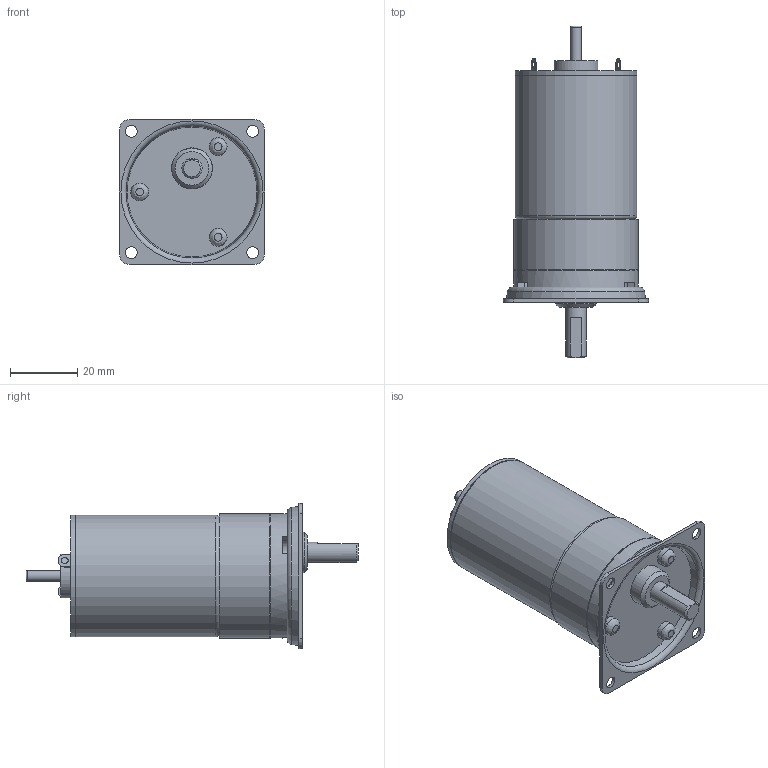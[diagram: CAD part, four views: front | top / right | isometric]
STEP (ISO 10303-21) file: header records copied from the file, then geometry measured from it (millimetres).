
FILE_DESCRIPTION((''),'2;1');
FILE_NAME('C:\Documents and Settings\SSEGAWA\デスクトップ\TP-3644L-PKS-2.STP','2013-07-26T19:07:37',('SSEGAWA'),(''),'Autodesk Inventor 2010','Autodesk Inventor 2010','');
FILE_SCHEMA(('CONFIG_CONTROL_DESIGN'));
Length unit declared in the file: millimetre
Products named in the file (1): tp_3644l_pks_2_Shrinkwrap_1
Bounding box: 43 x 98.4 x 43 mm (x, y, z)
Volume: 69865.8 mm3; surface area: 14483.1 mm2
Topology: 11 solids, 11 shells, 116 faces, 249 edges, 166 vertices
Faces by surface type: plane 54, cylinder 27, bspline 27, cone 4, torus 4
Full cylindrical faces by diameter (mm): 3 x1, 3.175 x1, 3.5 x1, 5.3 x3, 6 x1, 12 x1, 12.2 x1, 13 x1, 35.6 x1, 36 x2, 36.6 x1, 37 x2
Entity records: 3298 total; most frequent: CARTESIAN_POINT 968, DIRECTION 451, ORIENTED_EDGE 340, AXIS2_PLACEMENT_3D 193, EDGE_LOOP 189, EDGE_CURVE 170, VERTEX_POINT 137, STYLED_ITEM 127
